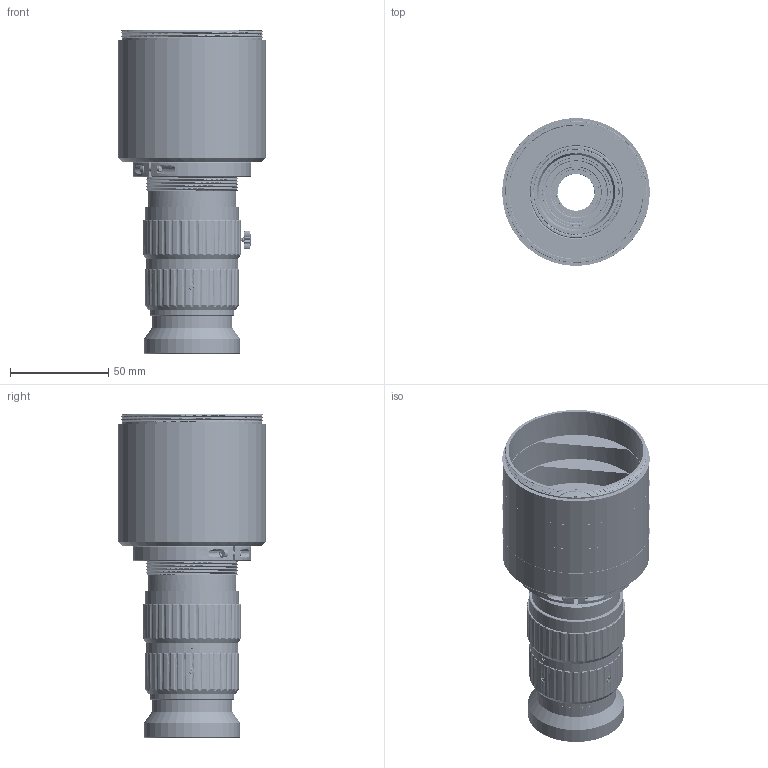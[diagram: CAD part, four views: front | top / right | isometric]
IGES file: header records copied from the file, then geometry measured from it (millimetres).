
Start section: SolidWorks IGES file using analytic representation for surfaces
Global section: file name: C:\Users\gc\Desktop\陔膘恅璃標\LS808K-050-3D.IGS; native system: SolidWorks 2017; preprocessor: SolidWorks 2017; author: gc; date: 221212.151739; units: millimetre
Bounding box: 75.01 x 75.01 x 164.38 mm (x, y, z)
Surface area: 131649 mm2 (no closed solid volume)
Topology: 0 solids, 0 shells, 1774 faces, 36778 edges, 36729 vertices
Faces by surface type: revolution 1124, bspline 650
